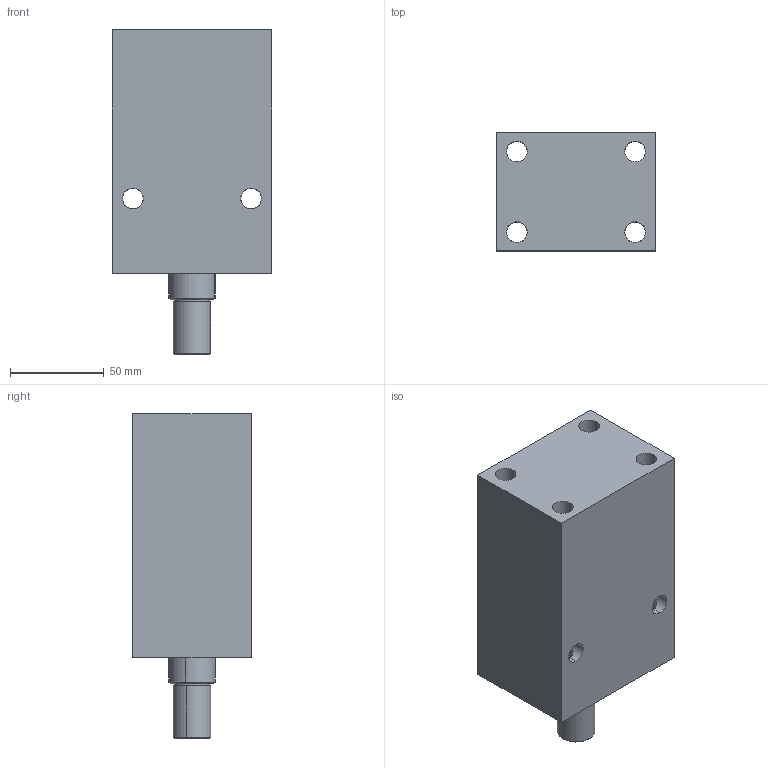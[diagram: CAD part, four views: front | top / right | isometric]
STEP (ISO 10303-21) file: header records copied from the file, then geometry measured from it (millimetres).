
FILE_DESCRIPTION (( 'STEP AP203' ), '1' );
FILE_NAME ('Block cylinder_B01C-375M.STEP', '2022-07-09T18:11:50', ( '' ), ( '' ), 'SwSTEP 2.0', 'SolidWorks 2017', '' );
FILE_SCHEMA (( 'CONFIG_CONTROL_DESIGN' ));
Length unit declared in the file: millimetre
Products named in the file (3): Body_375M_50ST; Piston_375M_50sT; Block cylinder_B01C-375M
Assembly tree (2 placements, depth 2):
  Block cylinder_B01C-375M
    Body_375M_50ST
    Piston_375M_50sT
Bounding box: 85 x 63 x 173 mm (x, y, z)
Volume: 672286.1 mm3; surface area: 85760.4 mm2
Topology: 2 solids, 2 shells, 352 faces, 961 edges, 628 vertices
Faces by surface type: bspline 152, plane 146, cylinder 46, cone 8
Entity records: 17430 total; most frequent: CARTESIAN_POINT 9302, ORIENTED_EDGE 1914, DIRECTION 1095, EDGE_CURVE 957, VERTEX_POINT 628, VECTOR 557, LINE 557, EDGE_LOOP 391
